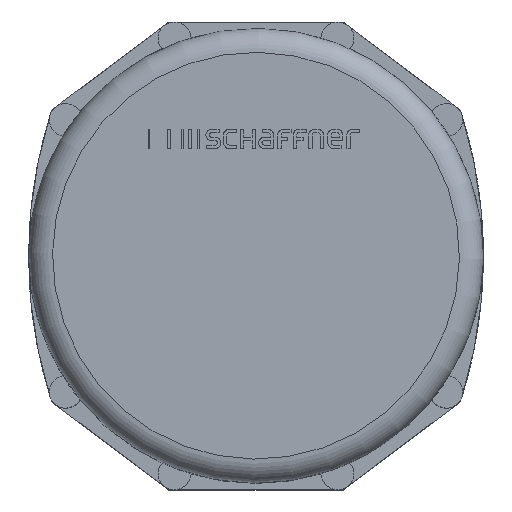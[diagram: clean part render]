
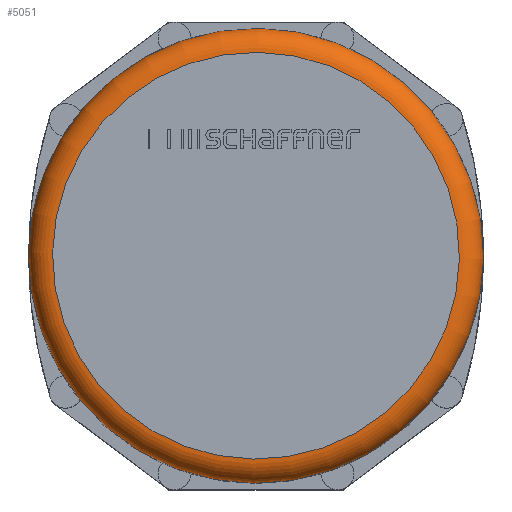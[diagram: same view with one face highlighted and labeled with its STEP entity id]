
A CAD part, top view. The second image highlights one B-rep face of the part: STEP entity #5051.
In plain terms, the highlighted toroidal (fillet/blend) face has major radius 18.7 mm and minor radius 2.2 mm.
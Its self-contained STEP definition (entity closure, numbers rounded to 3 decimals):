
#4721=CARTESIAN_POINT('',(14.481,11.832,0.0));
#4722=VERTEX_POINT('',#4721);
#4723=CARTESIAN_POINT('',(0.0,0.0,0.0));
#4724=DIRECTION('',(0.0,0.0,-1.0));
#4725=DIRECTION('',(-0.774,-0.633,0.0));
#4726=AXIS2_PLACEMENT_3D('',#4723,#4724,#4725);
#4727=CIRCLE('',#4726,18.7);
#4728=EDGE_CURVE('',#4722,#4722,#4727,.T.);
#5032=CARTESIAN_POINT('',(0.0,0.0,-2.2));
#5033=DIRECTION('',(0.0,0.0,1.0));
#5034=DIRECTION('',(1.0,0.0,0.0));
#5035=AXIS2_PLACEMENT_3D('',#5032,#5033,#5034);
#5036=TOROIDAL_SURFACE('',#5035,18.7,2.2);
#5037=CARTESIAN_POINT('',(16.185,13.223,-2.2));
#5038=VERTEX_POINT('',#5037);
#5039=CARTESIAN_POINT('',(0.0,0.0,-2.2));
#5040=DIRECTION('',(0.0,0.0,1.0));
#5041=DIRECTION('',(-0.774,-0.633,0.0));
#5042=AXIS2_PLACEMENT_3D('',#5039,#5040,#5041);
#5043=CIRCLE('',#5042,20.9);
#5044=EDGE_CURVE('',#5038,#5038,#5043,.T.);
#5045=ORIENTED_EDGE('',*,*,#5044,.T.);
#5046=EDGE_LOOP('',(#5045));
#5047=FACE_OUTER_BOUND('',#5046,.T.);
#5048=ORIENTED_EDGE('',*,*,#4728,.T.);
#5049=EDGE_LOOP('',(#5048));
#5050=FACE_BOUND('',#5049,.T.);
#5051=ADVANCED_FACE('',(#5047,#5050),#5036,.T.);
